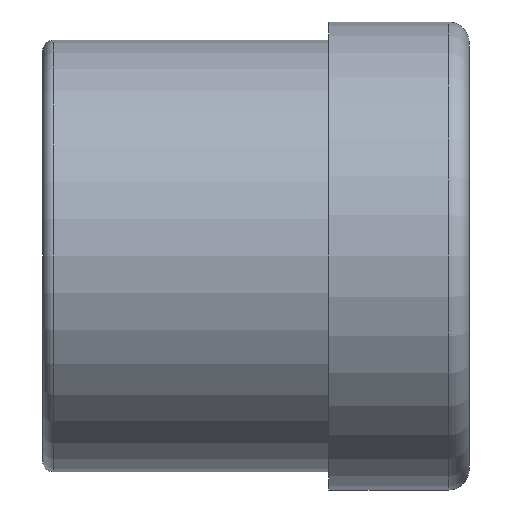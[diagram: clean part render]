
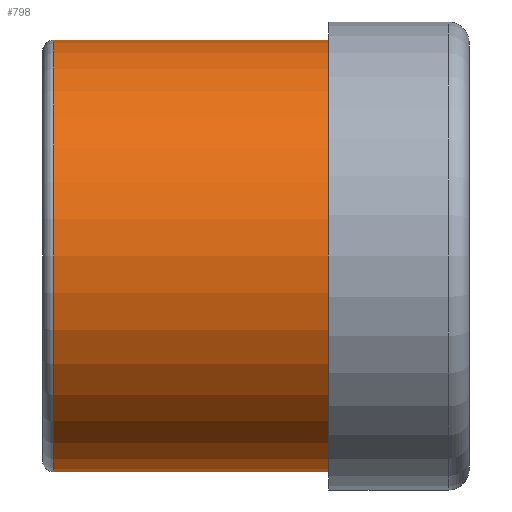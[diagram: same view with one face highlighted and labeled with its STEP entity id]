
A CAD part, left-side view. The second image highlights one B-rep face of the part: STEP entity #798.
In plain terms, the highlighted cylindrical face has radius 4.15 mm (diameter 8.3 mm), a partial arc.
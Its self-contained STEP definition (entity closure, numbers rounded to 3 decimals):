
#7 = CARTESIAN_POINT ( 'NONE',  ( 0., -5.5, -4.15 ) ) ;
#15 = CARTESIAN_POINT ( 'NONE',  ( 0., -0.2, -4.15 ) ) ;
#54 = CARTESIAN_POINT ( 'NONE',  ( 0., -5.5, 0. ) ) ;
#60 = CARTESIAN_POINT ( 'NONE',  ( 0., -0.2, 4.15 ) ) ;
#70 = DIRECTION ( 'NONE',  ( 0., 0., 1. ) ) ;
#83 = VECTOR ( 'NONE', #1045, 1000. ) ;
#134 = EDGE_CURVE ( 'NONE', #822, #871, #1032, .T. ) ;
#164 = DIRECTION ( 'NONE',  ( 0., 1., 0. ) ) ;
#198 = CARTESIAN_POINT ( 'NONE',  ( 0., 53.08, -4.15 ) ) ;
#244 = LINE ( 'NONE', #1056, #800 ) ;
#265 = ORIENTED_EDGE ( 'NONE', *, *, #793, .T. ) ;
#272 = EDGE_CURVE ( 'NONE', #837, #871, #767, .T. ) ;
#292 = DIRECTION ( 'NONE',  ( 0., -1., 0. ) ) ;
#302 = CYLINDRICAL_SURFACE ( 'NONE', #406, 4.15 ) ;
#305 = ORIENTED_EDGE ( 'NONE', *, *, #826, .T. ) ;
#327 = DIRECTION ( 'NONE',  ( 0., 1., 0. ) ) ;
#364 = FACE_OUTER_BOUND ( 'NONE', #845, .T. ) ;
#396 = CIRCLE ( 'NONE', #944, 4.15 ) ;
#406 = AXIS2_PLACEMENT_3D ( 'NONE', #635, #744, #671 ) ;
#618 = DIRECTION ( 'NONE',  ( 0., 0., 1. ) ) ;
#635 = CARTESIAN_POINT ( 'NONE',  ( 0., 53.08, 0. ) ) ;
#671 = DIRECTION ( 'NONE',  ( 0., 0., 1. ) ) ;
#706 = ORIENTED_EDGE ( 'NONE', *, *, #272, .F. ) ;
#744 = DIRECTION ( 'NONE',  ( 0., 1., 0. ) ) ;
#767 = LINE ( 'NONE', #198, #83 ) ;
#793 = EDGE_CURVE ( 'NONE', #985, #822, #244, .T. ) ;
#798 = ADVANCED_FACE ( 'NONE', ( #364 ), #302, .T. ) ;
#800 = VECTOR ( 'NONE', #164, 1000. ) ;
#822 = VERTEX_POINT ( 'NONE', #60 ) ;
#826 = EDGE_CURVE ( 'NONE', #837, #985, #396, .T. ) ;
#837 = VERTEX_POINT ( 'NONE', #7 ) ;
#839 = AXIS2_PLACEMENT_3D ( 'NONE', #1039, #292, #618 ) ;
#845 = EDGE_LOOP ( 'NONE', ( #706, #305, #265, #868 ) ) ;
#868 = ORIENTED_EDGE ( 'NONE', *, *, #134, .T. ) ;
#871 = VERTEX_POINT ( 'NONE', #15 ) ;
#944 = AXIS2_PLACEMENT_3D ( 'NONE', #54, #327, #70 ) ;
#985 = VERTEX_POINT ( 'NONE', #1041 ) ;
#1032 = CIRCLE ( 'NONE', #839, 4.15 ) ;
#1039 = CARTESIAN_POINT ( 'NONE',  ( 0., -0.2, 0. ) ) ;
#1041 = CARTESIAN_POINT ( 'NONE',  ( 0., -5.5, 4.15 ) ) ;
#1045 = DIRECTION ( 'NONE',  ( 0., 1., 0. ) ) ;
#1056 = CARTESIAN_POINT ( 'NONE',  ( 0., 53.08, 4.15 ) ) ;
